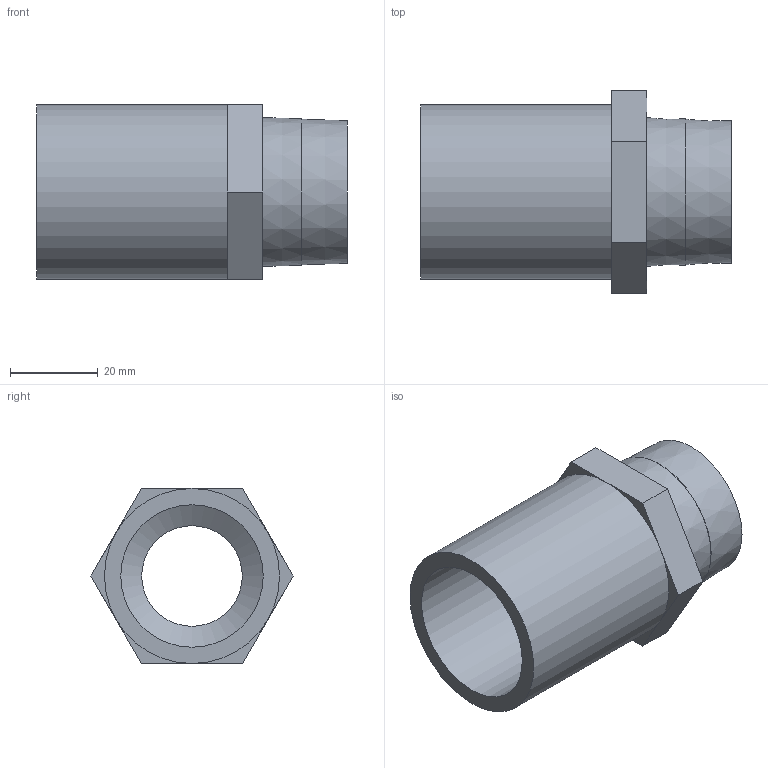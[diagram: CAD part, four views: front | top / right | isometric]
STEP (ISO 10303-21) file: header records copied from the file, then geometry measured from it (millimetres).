
FILE_DESCRIPTION(/* description */ ('ＶＰ'),/* implementation_level */ '2;1');
FILE_NAME(/* name */ 'C:\Users\Fujimoto-s\OneDrive\Inventor\WorkSpace\\X2\305D306E4ED6\X0\\ホームページ用\\X2\30C030A630F330ED30FC30C97D206750\X0\\塩ビ配管\TS-VS25\TS-VS25.stp',/* time_stamp */ '2024-08-10T13:45:56+09:00',/* author */ ('Fujimoto-s'),/* organization */ (''),/* preprocessor_version */ 'ST-DEVELOPER v15.2',/* originating_system */ 'Autodesk Inventor 2014',/* authorisation */ '');
FILE_SCHEMA (('AUTOMOTIVE_DESIGN { 1 0 10303 214 3 1 1 }'));
Length unit declared in the file: millimetre
Products named in the file (1): TS-VS25
Bounding box: 71 x 46.19 x 40 mm (x, y, z)
Volume: 36052 mm3; surface area: 16687.8 mm2
Topology: 1 solids, 1 shells, 22 faces, 46 edges, 28 vertices
Faces by surface type: plane 16, cylinder 3, cone 3
Full cylindrical faces by diameter (mm): 23 x1, 32.55 x1, 40 x1
Entity records: 570 total; most frequent: DIRECTION 100, CARTESIAN_POINT 89, ORIENTED_EDGE 78, EDGE_CURVE 39, AXIS2_PLACEMENT_3D 38, EDGE_LOOP 32, VERTEX_POINT 27, LINE 24
